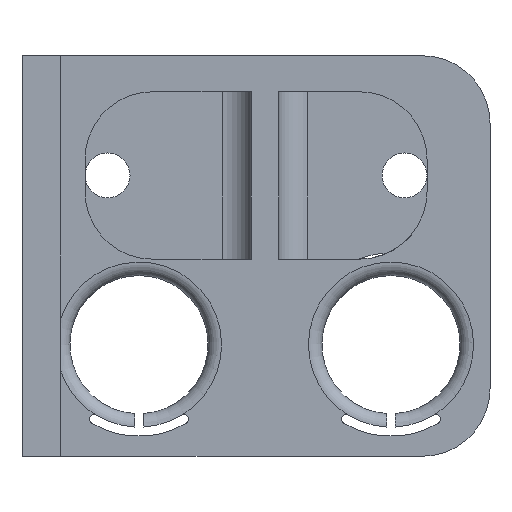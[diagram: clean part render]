
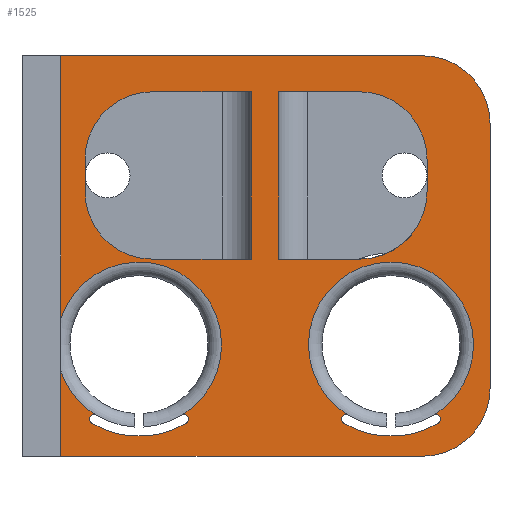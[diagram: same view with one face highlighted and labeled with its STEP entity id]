
A CAD part, left-side view. The second image highlights one B-rep face of the part: STEP entity #1525.
In plain terms, the highlighted planar face has unit normal (-1, 0, 0).
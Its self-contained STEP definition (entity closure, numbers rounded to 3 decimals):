
#62=FACE_BOUND('',#469,.T.);
#63=FACE_BOUND('',#470,.T.);
#64=FACE_BOUND('',#471,.T.);
#98=LINE('',#2446,#225);
#99=LINE('',#2448,#226);
#100=LINE('',#2452,#227);
#101=LINE('',#2456,#228);
#102=LINE('',#2457,#229);
#103=LINE('',#2465,#230);
#104=LINE('',#2469,#231);
#105=LINE('',#2473,#232);
#106=LINE('',#2474,#233);
#107=LINE('',#2477,#234);
#108=LINE('',#2479,#235);
#109=LINE('',#2483,#236);
#110=LINE('',#2486,#237);
#225=VECTOR('',#1864,10.);
#226=VECTOR('',#1865,10.);
#227=VECTOR('',#1868,10.);
#228=VECTOR('',#1871,10.);
#229=VECTOR('',#1872,10.);
#230=VECTOR('',#1879,10.);
#231=VECTOR('',#1882,10.);
#232=VECTOR('',#1885,10.);
#233=VECTOR('',#1886,10.);
#234=VECTOR('',#1887,10.);
#235=VECTOR('',#1888,10.);
#236=VECTOR('',#1891,10.);
#237=VECTOR('',#1894,10.);
#340=PLANE('',#1638);
#380=FACE_OUTER_BOUND('',#468,.T.);
#468=EDGE_LOOP('',(#1105,#1106,#1107,#1108,#1109,#1110,#1111,#1112,#1113,
#1114,#1115,#1116));
#469=EDGE_LOOP('',(#1117,#1118,#1119,#1120,#1121,#1122));
#470=EDGE_LOOP('',(#1123,#1124,#1125,#1126,#1127,#1128));
#471=EDGE_LOOP('',(#1129,#1130,#1131,#1132));
#593=CIRCLE('',#1633,9.175);
#597=CIRCLE('',#1637,9.175);
#598=CIRCLE('',#1639,7.5);
#599=CIRCLE('',#1640,7.5);
#600=CIRCLE('',#1641,0.5);
#601=CIRCLE('',#1642,10.175);
#602=CIRCLE('',#1643,0.5);
#603=CIRCLE('',#1644,7.5);
#604=CIRCLE('',#1645,7.5);
#605=CIRCLE('',#1646,7.5);
#606=CIRCLE('',#1647,7.5);
#607=CIRCLE('',#1648,9.175);
#608=CIRCLE('',#1649,0.5);
#609=CIRCLE('',#1650,10.175);
#610=CIRCLE('',#1651,0.5);
#712=VERTEX_POINT('',#2400);
#713=VERTEX_POINT('',#2401);
#714=VERTEX_POINT('',#2413);
#719=VERTEX_POINT('',#2441);
#720=VERTEX_POINT('',#2445);
#721=VERTEX_POINT('',#2447);
#722=VERTEX_POINT('',#2449);
#723=VERTEX_POINT('',#2451);
#724=VERTEX_POINT('',#2453);
#725=VERTEX_POINT('',#2455);
#726=VERTEX_POINT('',#2458);
#727=VERTEX_POINT('',#2460);
#728=VERTEX_POINT('',#2463);
#729=VERTEX_POINT('',#2464);
#730=VERTEX_POINT('',#2466);
#731=VERTEX_POINT('',#2468);
#732=VERTEX_POINT('',#2470);
#733=VERTEX_POINT('',#2472);
#734=VERTEX_POINT('',#2475);
#735=VERTEX_POINT('',#2476);
#736=VERTEX_POINT('',#2478);
#737=VERTEX_POINT('',#2480);
#738=VERTEX_POINT('',#2482);
#739=VERTEX_POINT('',#2484);
#740=VERTEX_POINT('',#2487);
#741=VERTEX_POINT('',#2488);
#742=VERTEX_POINT('',#2490);
#743=VERTEX_POINT('',#2492);
#864=EDGE_CURVE('',#712,#714,#593,.T.);
#870=EDGE_CURVE('',#719,#713,#597,.T.);
#871=EDGE_CURVE('',#712,#720,#98,.T.);
#872=EDGE_CURVE('',#720,#721,#99,.T.);
#873=EDGE_CURVE('',#722,#721,#598,.T.);
#874=EDGE_CURVE('',#722,#723,#100,.T.);
#875=EDGE_CURVE('',#723,#724,#599,.T.);
#876=EDGE_CURVE('',#724,#725,#101,.T.);
#877=EDGE_CURVE('',#725,#713,#102,.T.);
#878=EDGE_CURVE('',#719,#726,#600,.T.);
#879=EDGE_CURVE('',#726,#727,#601,.T.);
#880=EDGE_CURVE('',#727,#714,#602,.T.);
#881=EDGE_CURVE('',#728,#729,#103,.T.);
#882=EDGE_CURVE('',#729,#730,#603,.T.);
#883=EDGE_CURVE('',#730,#731,#104,.T.);
#884=EDGE_CURVE('',#731,#732,#604,.T.);
#885=EDGE_CURVE('',#732,#733,#105,.T.);
#886=EDGE_CURVE('',#733,#728,#106,.T.);
#887=EDGE_CURVE('',#734,#735,#107,.T.);
#888=EDGE_CURVE('',#735,#736,#108,.T.);
#889=EDGE_CURVE('',#736,#737,#605,.T.);
#890=EDGE_CURVE('',#737,#738,#109,.T.);
#891=EDGE_CURVE('',#738,#739,#606,.T.);
#892=EDGE_CURVE('',#739,#734,#110,.T.);
#893=EDGE_CURVE('',#740,#741,#607,.T.);
#894=EDGE_CURVE('',#740,#742,#608,.T.);
#895=EDGE_CURVE('',#742,#743,#609,.T.);
#896=EDGE_CURVE('',#743,#741,#610,.T.);
#1105=ORIENTED_EDGE('',*,*,#864,.F.);
#1106=ORIENTED_EDGE('',*,*,#871,.T.);
#1107=ORIENTED_EDGE('',*,*,#872,.T.);
#1108=ORIENTED_EDGE('',*,*,#873,.F.);
#1109=ORIENTED_EDGE('',*,*,#874,.T.);
#1110=ORIENTED_EDGE('',*,*,#875,.T.);
#1111=ORIENTED_EDGE('',*,*,#876,.T.);
#1112=ORIENTED_EDGE('',*,*,#877,.T.);
#1113=ORIENTED_EDGE('',*,*,#870,.F.);
#1114=ORIENTED_EDGE('',*,*,#878,.T.);
#1115=ORIENTED_EDGE('',*,*,#879,.T.);
#1116=ORIENTED_EDGE('',*,*,#880,.T.);
#1117=ORIENTED_EDGE('',*,*,#881,.T.);
#1118=ORIENTED_EDGE('',*,*,#882,.T.);
#1119=ORIENTED_EDGE('',*,*,#883,.T.);
#1120=ORIENTED_EDGE('',*,*,#884,.T.);
#1121=ORIENTED_EDGE('',*,*,#885,.T.);
#1122=ORIENTED_EDGE('',*,*,#886,.T.);
#1123=ORIENTED_EDGE('',*,*,#887,.T.);
#1124=ORIENTED_EDGE('',*,*,#888,.T.);
#1125=ORIENTED_EDGE('',*,*,#889,.T.);
#1126=ORIENTED_EDGE('',*,*,#890,.T.);
#1127=ORIENTED_EDGE('',*,*,#891,.T.);
#1128=ORIENTED_EDGE('',*,*,#892,.T.);
#1129=ORIENTED_EDGE('',*,*,#893,.F.);
#1130=ORIENTED_EDGE('',*,*,#894,.T.);
#1131=ORIENTED_EDGE('',*,*,#895,.T.);
#1132=ORIENTED_EDGE('',*,*,#896,.T.);
#1525=ADVANCED_FACE('',(#380,#62,#63,#64),#340,.F.);
#1633=AXIS2_PLACEMENT_3D('',#2414,#1852,#1853);
#1637=AXIS2_PLACEMENT_3D('',#2443,#1860,#1861);
#1638=AXIS2_PLACEMENT_3D('',#2444,#1862,#1863);
#1639=AXIS2_PLACEMENT_3D('',#2450,#1866,#1867);
#1640=AXIS2_PLACEMENT_3D('',#2454,#1869,#1870);
#1641=AXIS2_PLACEMENT_3D('',#2459,#1873,#1874);
#1642=AXIS2_PLACEMENT_3D('',#2461,#1875,#1876);
#1643=AXIS2_PLACEMENT_3D('',#2462,#1877,#1878);
#1644=AXIS2_PLACEMENT_3D('',#2467,#1880,#1881);
#1645=AXIS2_PLACEMENT_3D('',#2471,#1883,#1884);
#1646=AXIS2_PLACEMENT_3D('',#2481,#1889,#1890);
#1647=AXIS2_PLACEMENT_3D('',#2485,#1892,#1893);
#1648=AXIS2_PLACEMENT_3D('',#2489,#1895,#1896);
#1649=AXIS2_PLACEMENT_3D('',#2491,#1897,#1898);
#1650=AXIS2_PLACEMENT_3D('',#2493,#1899,#1900);
#1651=AXIS2_PLACEMENT_3D('',#2494,#1901,#1902);
#1852=DIRECTION('center_axis',(-1.,0.,0.));
#1853=DIRECTION('ref_axis',(0.,0.,1.));
#1860=DIRECTION('center_axis',(-1.,0.,0.));
#1861=DIRECTION('ref_axis',(0.,0.,1.));
#1862=DIRECTION('center_axis',(1.,0.,0.));
#1863=DIRECTION('ref_axis',(0.,1.,0.));
#1864=DIRECTION('',(0.,0.,-1.));
#1865=DIRECTION('',(0.,-1.,0.));
#1866=DIRECTION('center_axis',(1.,0.,0.));
#1867=DIRECTION('ref_axis',(0.,-0.707,-0.707));
#1868=DIRECTION('',(0.,0.,1.));
#1869=DIRECTION('center_axis',(-1.,0.,0.));
#1870=DIRECTION('ref_axis',(0.,-0.707,0.707));
#1871=DIRECTION('',(0.,1.,0.));
#1872=DIRECTION('',(0.,0.,-1.));
#1873=DIRECTION('center_axis',(1.,0.,0.));
#1874=DIRECTION('ref_axis',(0.,1.,0.));
#1875=DIRECTION('center_axis',(1.,0.,0.));
#1876=DIRECTION('ref_axis',(0.,1.,0.));
#1877=DIRECTION('center_axis',(1.,0.,0.));
#1878=DIRECTION('ref_axis',(0.,1.,0.));
#1879=DIRECTION('',(0.,-1.,0.));
#1880=DIRECTION('center_axis',(1.,0.,0.));
#1881=DIRECTION('ref_axis',(0.,-0.707,0.707));
#1882=DIRECTION('',(0.,0.,-1.));
#1883=DIRECTION('center_axis',(1.,0.,0.));
#1884=DIRECTION('ref_axis',(0.,-0.707,-0.707));
#1885=DIRECTION('',(0.,1.,0.));
#1886=DIRECTION('',(0.,0.,1.));
#1887=DIRECTION('',(0.,0.,-1.));
#1888=DIRECTION('',(0.,1.,0.));
#1889=DIRECTION('center_axis',(1.,0.,0.));
#1890=DIRECTION('ref_axis',(0.,0.707,-0.707));
#1891=DIRECTION('',(0.,0.,1.));
#1892=DIRECTION('center_axis',(1.,0.,0.));
#1893=DIRECTION('ref_axis',(0.,0.707,0.707));
#1894=DIRECTION('',(0.,-1.,0.));
#1895=DIRECTION('center_axis',(-1.,0.,0.));
#1896=DIRECTION('ref_axis',(0.,0.,1.));
#1897=DIRECTION('center_axis',(1.,0.,0.));
#1898=DIRECTION('ref_axis',(0.,1.,0.));
#1899=DIRECTION('center_axis',(1.,0.,0.));
#1900=DIRECTION('ref_axis',(0.,1.,0.));
#1901=DIRECTION('center_axis',(1.,0.,0.));
#1902=DIRECTION('ref_axis',(0.,1.,0.));
#2400=CARTESIAN_POINT('',(-15.,22.7,-2.914));
#2401=CARTESIAN_POINT('',(-15.,22.7,2.914));
#2413=CARTESIAN_POINT('',(-15.,18.742,-7.855));
#2414=CARTESIAN_POINT('Origin',(-15.,14.,0.));
#2441=CARTESIAN_POINT('',(-15.,9.258,-7.855));
#2443=CARTESIAN_POINT('Origin',(-15.,14.,0.));
#2444=CARTESIAN_POINT('Origin',(-15.,1.,-17.5));
#2445=CARTESIAN_POINT('',(-15.,22.7,-12.4));
#2446=CARTESIAN_POINT('',(-15.,22.7,-3.825));
#2447=CARTESIAN_POINT('',(-15.,-17.5,-12.4));
#2448=CARTESIAN_POINT('',(-15.,1.,-12.4));
#2449=CARTESIAN_POINT('',(-15.,-25.,-4.9));
#2450=CARTESIAN_POINT('Origin',(-15.,-17.5,-4.9));
#2451=CARTESIAN_POINT('',(-15.,-25.,24.6));
#2452=CARTESIAN_POINT('',(-15.,-25.,-12.5));
#2453=CARTESIAN_POINT('',(-15.,-17.5,32.1));
#2454=CARTESIAN_POINT('Origin',(-15.,-17.5,24.6));
#2455=CARTESIAN_POINT('',(-15.,22.7,32.1));
#2456=CARTESIAN_POINT('',(-15.,27.,32.1));
#2457=CARTESIAN_POINT('',(-15.,22.7,-3.825));
#2458=CARTESIAN_POINT('',(-15.,8.742,-8.711));
#2459=CARTESIAN_POINT('Origin',(-15.,9.,-8.283));
#2460=CARTESIAN_POINT('',(-15.,19.258,-8.711));
#2461=CARTESIAN_POINT('Origin',(-15.,14.,0.));
#2462=CARTESIAN_POINT('Origin',(-15.,19.,-8.283));
#2463=CARTESIAN_POINT('',(-15.,-1.5,28.1));
#2464=CARTESIAN_POINT('',(-15.,-10.5,28.1));
#2465=CARTESIAN_POINT('',(-15.,27.,28.1));
#2466=CARTESIAN_POINT('',(-15.,-18.,20.6));
#2467=CARTESIAN_POINT('Origin',(-15.,-10.5,20.6));
#2468=CARTESIAN_POINT('',(-15.,-18.,17.));
#2469=CARTESIAN_POINT('',(-15.,-18.,9.5));
#2470=CARTESIAN_POINT('',(-15.,-10.5,9.5));
#2471=CARTESIAN_POINT('Origin',(-15.,-10.5,17.));
#2472=CARTESIAN_POINT('',(-15.,-1.5,9.5));
#2473=CARTESIAN_POINT('',(-15.,14.,9.5));
#2474=CARTESIAN_POINT('',(-15.,-1.5,9.5));
#2475=CARTESIAN_POINT('',(-15.,1.5,28.1));
#2476=CARTESIAN_POINT('',(-15.,1.5,9.5));
#2477=CARTESIAN_POINT('',(-15.,1.5,9.5));
#2478=CARTESIAN_POINT('',(-15.,12.5,9.5));
#2479=CARTESIAN_POINT('',(-15.,14.,9.5));
#2480=CARTESIAN_POINT('',(-15.,20.,17.));
#2481=CARTESIAN_POINT('Origin',(-15.,12.5,17.));
#2482=CARTESIAN_POINT('',(-15.,20.,20.6));
#2483=CARTESIAN_POINT('',(-15.,20.,9.5));
#2484=CARTESIAN_POINT('',(-15.,12.5,28.1));
#2485=CARTESIAN_POINT('Origin',(-15.,12.5,20.6));
#2486=CARTESIAN_POINT('',(-15.,27.,28.1));
#2487=CARTESIAN_POINT('',(-15.,-18.742,-7.855));
#2488=CARTESIAN_POINT('',(-15.,-9.258,-7.855));
#2489=CARTESIAN_POINT('Origin',(-15.,-14.,0.));
#2490=CARTESIAN_POINT('',(-15.,-19.258,-8.711));
#2491=CARTESIAN_POINT('Origin',(-15.,-19.,-8.283));
#2492=CARTESIAN_POINT('',(-15.,-8.742,-8.711));
#2493=CARTESIAN_POINT('Origin',(-15.,-14.,0.));
#2494=CARTESIAN_POINT('Origin',(-15.,-9.,-8.283));
